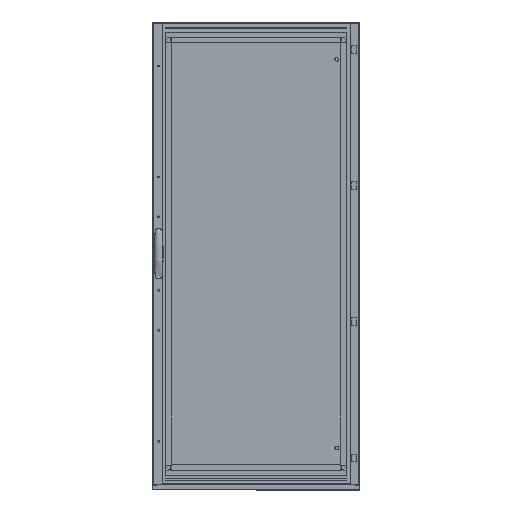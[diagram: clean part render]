
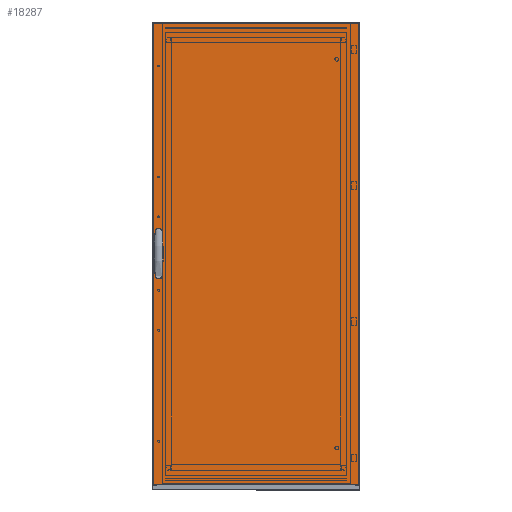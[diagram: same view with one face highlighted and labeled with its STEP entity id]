
A CAD part, top view. The second image highlights one B-rep face of the part: STEP entity #18287.
In plain terms, the highlighted planar face has unit normal (0, 0, 1) as drawn and (0, 0, -1) by its records, which use the part's own axes.
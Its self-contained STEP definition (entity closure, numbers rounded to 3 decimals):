
#275=CIRCLE('',#20319,2.6);
#276=CIRCLE('',#20320,2.6);
#2357=ORIENTED_EDGE('',*,*,#6611,.T.);
#2358=ORIENTED_EDGE('',*,*,#6612,.T.);
#2359=ORIENTED_EDGE('',*,*,#6613,.T.);
#2360=ORIENTED_EDGE('',*,*,#6614,.T.);
#2361=ORIENTED_EDGE('',*,*,#6615,.T.);
#2362=ORIENTED_EDGE('',*,*,#6616,.T.);
#2363=ORIENTED_EDGE('',*,*,#6617,.T.);
#2364=ORIENTED_EDGE('',*,*,#6618,.T.);
#2365=ORIENTED_EDGE('',*,*,#6619,.T.);
#2366=ORIENTED_EDGE('',*,*,#6620,.T.);
#2367=ORIENTED_EDGE('',*,*,#6621,.T.);
#2368=ORIENTED_EDGE('',*,*,#6622,.T.);
#2369=ORIENTED_EDGE('',*,*,#6623,.T.);
#2370=ORIENTED_EDGE('',*,*,#6624,.T.);
#2371=ORIENTED_EDGE('',*,*,#6625,.T.);
#2372=ORIENTED_EDGE('',*,*,#6626,.T.);
#2373=ORIENTED_EDGE('',*,*,#6627,.T.);
#2374=ORIENTED_EDGE('',*,*,#6628,.F.);
#2375=ORIENTED_EDGE('',*,*,#6629,.F.);
#2376=ORIENTED_EDGE('',*,*,#6630,.T.);
#2377=ORIENTED_EDGE('',*,*,#6631,.T.);
#2378=ORIENTED_EDGE('',*,*,#6632,.T.);
#6611=EDGE_CURVE('',#8892,#8893,#10798,.T.);
#6612=EDGE_CURVE('',#8893,#8894,#10799,.T.);
#6613=EDGE_CURVE('',#8894,#8895,#10800,.T.);
#6614=EDGE_CURVE('',#8895,#8896,#10801,.T.);
#6615=EDGE_CURVE('',#8896,#8897,#10802,.T.);
#6616=EDGE_CURVE('',#8897,#8898,#10803,.T.);
#6617=EDGE_CURVE('',#8898,#8899,#10804,.T.);
#6618=EDGE_CURVE('',#8899,#8900,#10805,.T.);
#6619=EDGE_CURVE('',#8900,#8901,#10806,.T.);
#6620=EDGE_CURVE('',#8901,#8902,#10807,.T.);
#6621=EDGE_CURVE('',#8902,#8903,#10808,.T.);
#6622=EDGE_CURVE('',#8903,#8904,#10809,.T.);
#6623=EDGE_CURVE('',#8904,#8905,#10810,.T.);
#6624=EDGE_CURVE('',#8905,#8906,#10811,.T.);
#6625=EDGE_CURVE('',#8906,#8907,#10812,.T.);
#6626=EDGE_CURVE('',#8907,#8892,#10813,.T.);
#6627=EDGE_CURVE('',#8908,#8909,#10814,.T.);
#6628=EDGE_CURVE('',#8910,#8909,#10815,.T.);
#6629=EDGE_CURVE('',#8911,#8910,#10816,.T.);
#6630=EDGE_CURVE('',#8911,#8908,#10817,.T.);
#6631=EDGE_CURVE('',#8912,#8912,#275,.T.);
#6632=EDGE_CURVE('',#8913,#8913,#276,.T.);
#8892=VERTEX_POINT('',#28013);
#8893=VERTEX_POINT('',#28014);
#8894=VERTEX_POINT('',#28016);
#8895=VERTEX_POINT('',#28018);
#8896=VERTEX_POINT('',#28020);
#8897=VERTEX_POINT('',#28022);
#8898=VERTEX_POINT('',#28024);
#8899=VERTEX_POINT('',#28026);
#8900=VERTEX_POINT('',#28028);
#8901=VERTEX_POINT('',#28030);
#8902=VERTEX_POINT('',#28032);
#8903=VERTEX_POINT('',#28034);
#8904=VERTEX_POINT('',#28036);
#8905=VERTEX_POINT('',#28038);
#8906=VERTEX_POINT('',#28040);
#8907=VERTEX_POINT('',#28042);
#8908=VERTEX_POINT('',#28045);
#8909=VERTEX_POINT('',#28046);
#8910=VERTEX_POINT('',#28048);
#8911=VERTEX_POINT('',#28050);
#8912=VERTEX_POINT('',#28053);
#8913=VERTEX_POINT('',#28055);
#10798=LINE('',#28012,#13074);
#10799=LINE('',#28015,#13075);
#10800=LINE('',#28017,#13076);
#10801=LINE('',#28019,#13077);
#10802=LINE('',#28021,#13078);
#10803=LINE('',#28023,#13079);
#10804=LINE('',#28025,#13080);
#10805=LINE('',#28027,#13081);
#10806=LINE('',#28029,#13082);
#10807=LINE('',#28031,#13083);
#10808=LINE('',#28033,#13084);
#10809=LINE('',#28035,#13085);
#10810=LINE('',#28037,#13086);
#10811=LINE('',#28039,#13087);
#10812=LINE('',#28041,#13088);
#10813=LINE('',#28043,#13089);
#10814=LINE('',#28044,#13090);
#10815=LINE('',#28047,#13091);
#10816=LINE('',#28049,#13092);
#10817=LINE('',#28051,#13093);
#13074=VECTOR('',#22896,1000.);
#13075=VECTOR('',#22897,1000.);
#13076=VECTOR('',#22898,1000.);
#13077=VECTOR('',#22899,1000.);
#13078=VECTOR('',#22900,1000.);
#13079=VECTOR('',#22901,1000.);
#13080=VECTOR('',#22902,1000.);
#13081=VECTOR('',#22903,1000.);
#13082=VECTOR('',#22904,1000.);
#13083=VECTOR('',#22905,1000.);
#13084=VECTOR('',#22906,1000.);
#13085=VECTOR('',#22907,1000.);
#13086=VECTOR('',#22908,1000.);
#13087=VECTOR('',#22909,1000.);
#13088=VECTOR('',#22910,1000.);
#13089=VECTOR('',#22911,1000.);
#13090=VECTOR('',#22912,1000.);
#13091=VECTOR('',#22913,1000.);
#13092=VECTOR('',#22914,1000.);
#13093=VECTOR('',#22915,1000.);
#15063=EDGE_LOOP('',(#2357,#2358,#2359,#2360,#2361,#2362,#2363,#2364,#2365,
#2366,#2367,#2368,#2369,#2370,#2371,#2372));
#15064=EDGE_LOOP('',(#2373,#2374,#2375,#2376));
#15065=EDGE_LOOP('',(#2377));
#15066=EDGE_LOOP('',(#2378));
#16295=FACE_BOUND('',#15063,.T.);
#16296=FACE_BOUND('',#15064,.T.);
#16297=FACE_BOUND('',#15065,.T.);
#16298=FACE_BOUND('',#15066,.T.);
#17357=PLANE('',#20318);
#18287=ADVANCED_FACE('',(#16295,#16296,#16297,#16298),#17357,.F.);
#20318=AXIS2_PLACEMENT_3D('',#28011,#22894,#22895);
#20319=AXIS2_PLACEMENT_3D('',#28052,#22916,#22917);
#20320=AXIS2_PLACEMENT_3D('',#28054,#22918,#22919);
#22894=DIRECTION('',(0.,0.,1.));
#22895=DIRECTION('',(1.,0.,0.));
#22896=DIRECTION('',(0.,-1.,0.));
#22897=DIRECTION('',(0.342,-0.94,0.));
#22898=DIRECTION('',(1.,0.,0.));
#22899=DIRECTION('',(0.,1.,0.));
#22900=DIRECTION('',(1.,0.,0.));
#22901=DIRECTION('',(0.,-1.,0.));
#22902=DIRECTION('',(1.,0.,0.));
#22903=DIRECTION('',(0.342,0.94,0.));
#22904=DIRECTION('',(0.,1.,0.));
#22905=DIRECTION('',(-0.342,0.94,0.));
#22906=DIRECTION('',(-1.,0.,0.));
#22907=DIRECTION('',(0.,-1.,0.));
#22908=DIRECTION('',(-1.,0.,0.));
#22909=DIRECTION('',(0.,1.,0.));
#22910=DIRECTION('',(-1.,0.,0.));
#22911=DIRECTION('',(-0.342,-0.94,0.));
#22912=DIRECTION('',(-1.,0.,0.));
#22913=DIRECTION('',(0.,-1.,0.));
#22914=DIRECTION('',(-1.,0.,0.));
#22915=DIRECTION('',(0.,-1.,0.));
#22916=DIRECTION('',(0.,0.,1.));
#22917=DIRECTION('',(1.,0.,0.));
#22918=DIRECTION('',(0.,0.,1.));
#22919=DIRECTION('',(1.,0.,0.));
#28011=CARTESIAN_POINT('',(396.5,1782.,-16.8));
#28012=CARTESIAN_POINT('',(362.95,956.256,-16.8));
#28013=CARTESIAN_POINT('',(362.95,956.256,-16.8));
#28014=CARTESIAN_POINT('',(362.95,825.744,-16.8));
#28015=CARTESIAN_POINT('',(362.95,825.744,-16.8));
#28016=CARTESIAN_POINT('',(364.95,820.25,-16.8));
#28017=CARTESIAN_POINT('',(364.95,820.25,-16.8));
#28018=CARTESIAN_POINT('',(370.2,820.25,-16.8));
#28019=CARTESIAN_POINT('',(370.2,820.25,-16.8));
#28020=CARTESIAN_POINT('',(370.2,828.,-16.8));
#28021=CARTESIAN_POINT('',(370.2,828.,-16.8));
#28022=CARTESIAN_POINT('',(381.2,828.,-16.8));
#28023=CARTESIAN_POINT('',(381.2,828.,-16.8));
#28024=CARTESIAN_POINT('',(381.2,820.25,-16.8));
#28025=CARTESIAN_POINT('',(381.2,820.25,-16.8));
#28026=CARTESIAN_POINT('',(386.45,820.25,-16.8));
#28027=CARTESIAN_POINT('',(386.45,820.25,-16.8));
#28028=CARTESIAN_POINT('',(388.45,825.744,-16.8));
#28029=CARTESIAN_POINT('',(388.45,825.744,-16.8));
#28030=CARTESIAN_POINT('',(388.45,956.256,-16.8));
#28031=CARTESIAN_POINT('',(388.45,956.256,-16.8));
#28032=CARTESIAN_POINT('',(386.45,961.75,-16.8));
#28033=CARTESIAN_POINT('',(386.45,961.75,-16.8));
#28034=CARTESIAN_POINT('',(381.2,961.75,-16.8));
#28035=CARTESIAN_POINT('',(381.2,961.75,-16.8));
#28036=CARTESIAN_POINT('',(381.2,954.,-16.8));
#28037=CARTESIAN_POINT('',(381.2,954.,-16.8));
#28038=CARTESIAN_POINT('',(370.2,954.,-16.8));
#28039=CARTESIAN_POINT('',(370.2,954.,-16.8));
#28040=CARTESIAN_POINT('',(370.2,961.75,-16.8));
#28041=CARTESIAN_POINT('',(370.2,961.75,-16.8));
#28042=CARTESIAN_POINT('',(364.95,961.75,-16.8));
#28043=CARTESIAN_POINT('',(364.95,961.75,-16.8));
#28044=CARTESIAN_POINT('',(396.5,0.,-16.8));
#28045=CARTESIAN_POINT('',(396.5,0.,-16.8));
#28046=CARTESIAN_POINT('',(-396.5,0.,-16.8));
#28047=CARTESIAN_POINT('',(-396.5,1782.,-16.8));
#28048=CARTESIAN_POINT('',(-396.5,1782.,-16.8));
#28049=CARTESIAN_POINT('',(396.5,1782.,-16.8));
#28050=CARTESIAN_POINT('',(396.5,1782.,-16.8));
#28051=CARTESIAN_POINT('',(396.5,1782.,-16.8));
#28052=CARTESIAN_POINT('',(375.7,961.,-16.8));
#28053=CARTESIAN_POINT('',(378.3,961.,-16.8));
#28054=CARTESIAN_POINT('',(375.7,821.,-16.8));
#28055=CARTESIAN_POINT('',(378.3,821.,-16.8));
